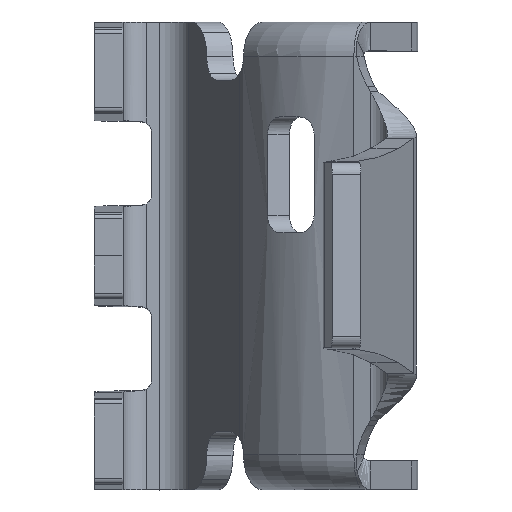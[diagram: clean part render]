
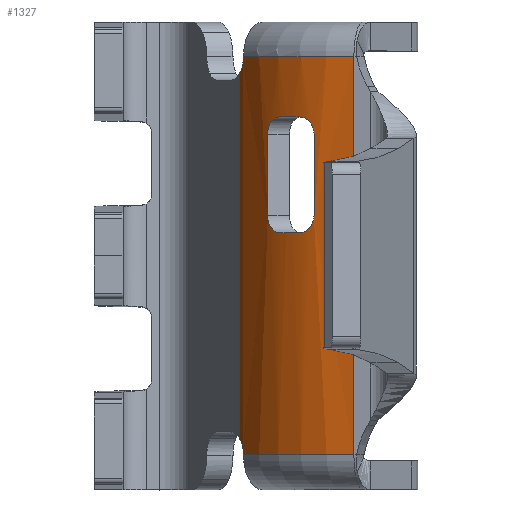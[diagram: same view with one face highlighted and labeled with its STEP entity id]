
A CAD part, top view. The second image highlights one B-rep face of the part: STEP entity #1327.
In plain terms, the highlighted cylindrical face has radius 15.2 mm (diameter 30.4 mm), a partial arc.
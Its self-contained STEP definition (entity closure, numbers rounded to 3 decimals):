
#1202=AXIS2_PLACEMENT_3D('Cylinder Axis2P3D',#1199,#1200,#1201) ;
#1206=AXIS2_PLACEMENT_3D('Circle Axis2P3D',#1204,#1205,$) ;
#1238=AXIS2_PLACEMENT_3D('Circle Axis2P3D',#1236,#1237,$) ;
#1280=AXIS2_PLACEMENT_3D('Circle Axis2P3D',#1278,#1279,$) ;
#1314=AXIS2_PLACEMENT_3D('Circle Axis2P3D',#1312,#1313,$) ;
#1000=CARTESIAN_POINT('Vertex',(133.948,17.2,35.557)) ;
#1003=CARTESIAN_POINT('Line Origine',(133.948,0.,35.557)) ;
#1007=CARTESIAN_POINT('Vertex',(133.948,-17.2,35.557)) ;
#1199=CARTESIAN_POINT('Axis2P3D Location',(137.882,0.,20.875)) ;
#1204=CARTESIAN_POINT('Axis2P3D Location',(137.882,17.2,20.875)) ;
#1208=CARTESIAN_POINT('Vertex',(124.405,17.2,27.906)) ;
#1212=CARTESIAN_POINT('Control Point',(124.106,15.846,27.299)) ;
#1213=CARTESIAN_POINT('Control Point',(124.233,16.096,27.571)) ;
#1214=CARTESIAN_POINT('Control Point',(124.344,16.416,27.79)) ;
#1215=CARTESIAN_POINT('Control Point',(124.405,16.809,27.906)) ;
#1216=CARTESIAN_POINT('Control Point',(124.405,17.2,27.906)) ;
#1217=CARTESIAN_POINT('Vertex',(124.106,15.846,27.299)) ;
#1220=CARTESIAN_POINT('Line Origine',(124.106,0.,27.299)) ;
#1224=CARTESIAN_POINT('Vertex',(124.106,-15.846,27.299)) ;
#1228=CARTESIAN_POINT('Control Point',(124.106,-15.846,27.299)) ;
#1229=CARTESIAN_POINT('Control Point',(124.233,-16.096,27.571)) ;
#1230=CARTESIAN_POINT('Control Point',(124.344,-16.416,27.79)) ;
#1231=CARTESIAN_POINT('Control Point',(124.405,-16.809,27.906)) ;
#1232=CARTESIAN_POINT('Control Point',(124.405,-17.2,27.906)) ;
#1233=CARTESIAN_POINT('Vertex',(124.405,-17.2,27.906)) ;
#1236=CARTESIAN_POINT('Axis2P3D Location',(137.882,-17.2,20.875)) ;
#1250=CARTESIAN_POINT('Control Point',(129.225,12.,33.369)) ;
#1251=CARTESIAN_POINT('Control Point',(129.612,12.,33.638)) ;
#1252=CARTESIAN_POINT('Control Point',(130.011,11.817,33.892)) ;
#1253=CARTESIAN_POINT('Control Point',(130.339,11.444,34.073)) ;
#1254=CARTESIAN_POINT('Control Point',(130.5,10.972,34.163)) ;
#1255=CARTESIAN_POINT('Control Point',(130.5,10.5,34.163)) ;
#1256=CARTESIAN_POINT('Vertex',(129.225,12.,33.369)) ;
#1258=CARTESIAN_POINT('Vertex',(130.5,10.5,34.163)) ;
#1261=CARTESIAN_POINT('Line Origine',(130.5,0.,34.163)) ;
#1265=CARTESIAN_POINT('Vertex',(130.5,3.5,34.163)) ;
#1269=CARTESIAN_POINT('Control Point',(129.225,2.,33.369)) ;
#1270=CARTESIAN_POINT('Control Point',(129.612,2.,33.638)) ;
#1271=CARTESIAN_POINT('Control Point',(130.011,2.183,33.892)) ;
#1272=CARTESIAN_POINT('Control Point',(130.339,2.556,34.073)) ;
#1273=CARTESIAN_POINT('Control Point',(130.5,3.028,34.163)) ;
#1274=CARTESIAN_POINT('Control Point',(130.5,3.5,34.163)) ;
#1275=CARTESIAN_POINT('Vertex',(129.225,2.,33.369)) ;
#1278=CARTESIAN_POINT('Axis2P3D Location',(137.882,2.,20.875)) ;
#1282=CARTESIAN_POINT('Vertex',(127.55,2.,32.024)) ;
#1286=CARTESIAN_POINT('Control Point',(127.55,2.,32.024)) ;
#1287=CARTESIAN_POINT('Control Point',(127.204,2.,31.703)) ;
#1288=CARTESIAN_POINT('Control Point',(126.87,2.183,31.369)) ;
#1289=CARTESIAN_POINT('Control Point',(126.622,2.556,31.088)) ;
#1290=CARTESIAN_POINT('Control Point',(126.5,3.028,30.95)) ;
#1291=CARTESIAN_POINT('Control Point',(126.5,3.5,30.95)) ;
#1292=CARTESIAN_POINT('Vertex',(126.5,3.5,30.95)) ;
#1295=CARTESIAN_POINT('Line Origine',(126.5,0.,30.95)) ;
#1299=CARTESIAN_POINT('Vertex',(126.5,10.5,30.95)) ;
#1303=CARTESIAN_POINT('Control Point',(127.55,12.,32.024)) ;
#1304=CARTESIAN_POINT('Control Point',(127.204,12.,31.703)) ;
#1305=CARTESIAN_POINT('Control Point',(126.87,11.817,31.369)) ;
#1306=CARTESIAN_POINT('Control Point',(126.622,11.444,31.088)) ;
#1307=CARTESIAN_POINT('Control Point',(126.5,10.972,30.95)) ;
#1308=CARTESIAN_POINT('Control Point',(126.5,10.5,30.95)) ;
#1309=CARTESIAN_POINT('Vertex',(127.55,12.,32.024)) ;
#1312=CARTESIAN_POINT('Axis2P3D Location',(137.882,12.,20.875)) ;
#1004=DIRECTION('Vector Direction',(0.,1.,0.)) ;
#1200=DIRECTION('Axis2P3D Direction',(0.,1.,0.)) ;
#1201=DIRECTION('Axis2P3D XDirection',(-0.906,0.,0.423)) ;
#1205=DIRECTION('Axis2P3D Direction',(0.,1.,0.)) ;
#1221=DIRECTION('Vector Direction',(0.,1.,0.)) ;
#1237=DIRECTION('Axis2P3D Direction',(0.,1.,0.)) ;
#1262=DIRECTION('Vector Direction',(0.,1.,0.)) ;
#1279=DIRECTION('Axis2P3D Direction',(0.,1.,0.)) ;
#1296=DIRECTION('Vector Direction',(0.,1.,0.)) ;
#1313=DIRECTION('Axis2P3D Direction',(0.,1.,0.)) ;
#1005=VECTOR('Line Direction',#1004,1.) ;
#1222=VECTOR('Line Direction',#1221,1.) ;
#1263=VECTOR('Line Direction',#1262,1.) ;
#1297=VECTOR('Line Direction',#1296,1.) ;
#1242=ORIENTED_EDGE('',*,*,#1009,.F.) ;
#1243=ORIENTED_EDGE('',*,*,#1210,.F.) ;
#1244=ORIENTED_EDGE('',*,*,#1219,.F.) ;
#1245=ORIENTED_EDGE('',*,*,#1226,.T.) ;
#1246=ORIENTED_EDGE('',*,*,#1235,.T.) ;
#1247=ORIENTED_EDGE('',*,*,#1240,.T.) ;
#1318=ORIENTED_EDGE('',*,*,#1260,.T.) ;
#1319=ORIENTED_EDGE('',*,*,#1267,.F.) ;
#1320=ORIENTED_EDGE('',*,*,#1277,.T.) ;
#1321=ORIENTED_EDGE('',*,*,#1284,.T.) ;
#1322=ORIENTED_EDGE('',*,*,#1294,.T.) ;
#1323=ORIENTED_EDGE('',*,*,#1301,.T.) ;
#1324=ORIENTED_EDGE('',*,*,#1311,.T.) ;
#1325=ORIENTED_EDGE('',*,*,#1316,.T.) ;
#1326=FACE_BOUND('',#1317,.T.) ;
#1327=ADVANCED_FACE('\X2\95016B627247\X0\',(#1248,#1326),#1203,.T.) ;
#1211=B_SPLINE_CURVE_WITH_KNOTS('',4,(#1212,#1213,#1214,#1215,#1216),.UNSPECIFIED.,.F.,.U.,(5,5),(0.,2.237),.UNSPECIFIED.) ;
#1227=B_SPLINE_CURVE_WITH_KNOTS('',4,(#1228,#1229,#1230,#1231,#1232),.UNSPECIFIED.,.F.,.U.,(5,5),(0.,2.237),.UNSPECIFIED.) ;
#1249=B_SPLINE_CURVE_WITH_KNOTS('',5,(#1250,#1251,#1252,#1253,#1254,#1255),.UNSPECIFIED.,.F.,.U.,(6,6),(0.,3.426),.UNSPECIFIED.) ;
#1268=B_SPLINE_CURVE_WITH_KNOTS('',5,(#1269,#1270,#1271,#1272,#1273,#1274),.UNSPECIFIED.,.F.,.U.,(6,6),(0.,3.426),.UNSPECIFIED.) ;
#1285=B_SPLINE_CURVE_WITH_KNOTS('',5,(#1286,#1287,#1288,#1289,#1290,#1291),.UNSPECIFIED.,.F.,.U.,(6,6),(0.,3.426),.UNSPECIFIED.) ;
#1302=B_SPLINE_CURVE_WITH_KNOTS('',5,(#1303,#1304,#1305,#1306,#1307,#1308),.UNSPECIFIED.,.F.,.U.,(6,6),(0.,3.426),.UNSPECIFIED.) ;
#1207=CIRCLE('generated circle',#1206,15.2) ;
#1239=CIRCLE('generated circle',#1238,15.2) ;
#1281=CIRCLE('generated circle',#1280,15.2) ;
#1315=CIRCLE('generated circle',#1314,15.2) ;
#1203=CYLINDRICAL_SURFACE('generated cylinder',#1202,15.2) ;
#1009=EDGE_CURVE('',#1001,#1008,#1006,.F.) ;
#1210=EDGE_CURVE('',#1209,#1001,#1207,.T.) ;
#1219=EDGE_CURVE('',#1218,#1209,#1211,.T.) ;
#1226=EDGE_CURVE('',#1218,#1225,#1223,.F.) ;
#1235=EDGE_CURVE('',#1225,#1234,#1227,.T.) ;
#1240=EDGE_CURVE('',#1234,#1008,#1239,.T.) ;
#1260=EDGE_CURVE('',#1257,#1259,#1249,.T.) ;
#1267=EDGE_CURVE('',#1266,#1259,#1264,.T.) ;
#1277=EDGE_CURVE('',#1266,#1276,#1268,.F.) ;
#1284=EDGE_CURVE('',#1276,#1283,#1281,.F.) ;
#1294=EDGE_CURVE('',#1283,#1293,#1285,.T.) ;
#1301=EDGE_CURVE('',#1293,#1300,#1298,.T.) ;
#1311=EDGE_CURVE('',#1300,#1310,#1302,.F.) ;
#1316=EDGE_CURVE('',#1310,#1257,#1315,.T.) ;
#1241=EDGE_LOOP('',(#1242,#1243,#1244,#1245,#1246,#1247)) ;
#1317=EDGE_LOOP('',(#1318,#1319,#1320,#1321,#1322,#1323,#1324,#1325)) ;
#1248=FACE_OUTER_BOUND('',#1241,.T.) ;
#1006=LINE('Line',#1003,#1005) ;
#1223=LINE('Line',#1220,#1222) ;
#1264=LINE('Line',#1261,#1263) ;
#1298=LINE('Line',#1295,#1297) ;
#1001=VERTEX_POINT('',#1000) ;
#1008=VERTEX_POINT('',#1007) ;
#1209=VERTEX_POINT('',#1208) ;
#1218=VERTEX_POINT('',#1217) ;
#1225=VERTEX_POINT('',#1224) ;
#1234=VERTEX_POINT('',#1233) ;
#1257=VERTEX_POINT('',#1256) ;
#1259=VERTEX_POINT('',#1258) ;
#1266=VERTEX_POINT('',#1265) ;
#1276=VERTEX_POINT('',#1275) ;
#1283=VERTEX_POINT('',#1282) ;
#1293=VERTEX_POINT('',#1292) ;
#1300=VERTEX_POINT('',#1299) ;
#1310=VERTEX_POINT('',#1309) ;
